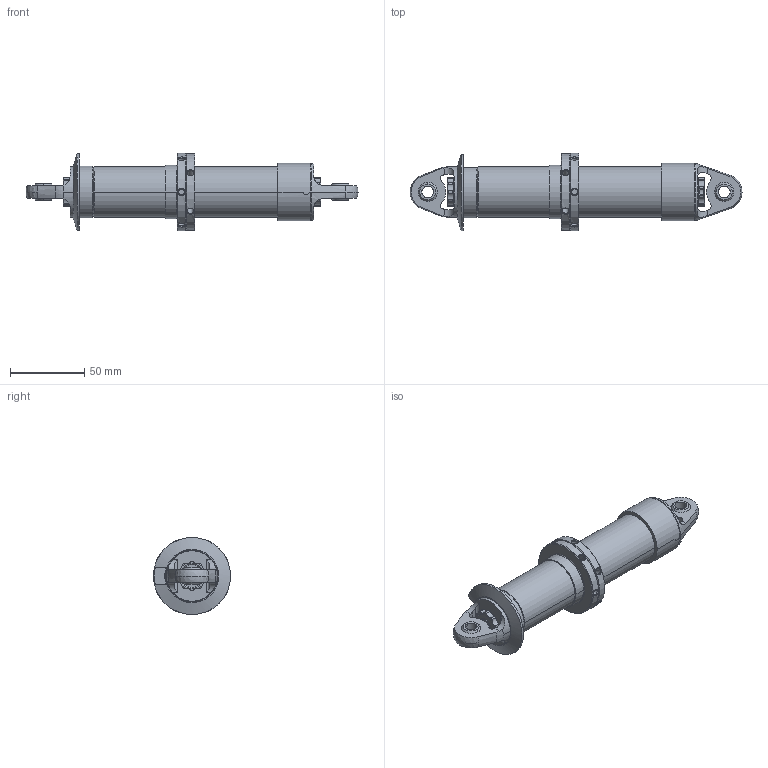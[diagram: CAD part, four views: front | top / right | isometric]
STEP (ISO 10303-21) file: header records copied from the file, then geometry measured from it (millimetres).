
FILE_DESCRIPTION((''),'2;1');
FILE_NAME('881700007751_SW0001','2012-10-16T',('z560107'),(''),'PRO/ENGINEER BY PARAMETRIC TECHNOLOGY CORPORATION, 2011330','PRO/ENGINEER BY PARAMETRIC TECHNOLOGY CORPORATION, 2011330','');
FILE_SCHEMA(('AUTOMOTIVE_DESIGN_CC2 { 1 2 10303 214 -1 1 5 2 }'));
Length unit declared in the file: millimetre
Products named in the file (1): 881700007751_SW0001
Bounding box: 224 x 52 x 52 mm (x, y, z)
Volume: 181986.8 mm3; surface area: 37027.2 mm2
Topology: 1 solids, 8 shells, 423 faces, 1067 edges, 652 vertices
Faces by surface type: cylinder 170, cone 164, plane 50, sphere 24, torus 13, bspline 2
Entity records: 18871 total; most frequent: CARTESIAN_POINT 8960, DIRECTION 2111, ORIENTED_EDGE 2030, EDGE_CURVE 1015, AXIS2_PLACEMENT_3D 903, VERTEX_POINT 652, EDGE_LOOP 483, CIRCLE 482
